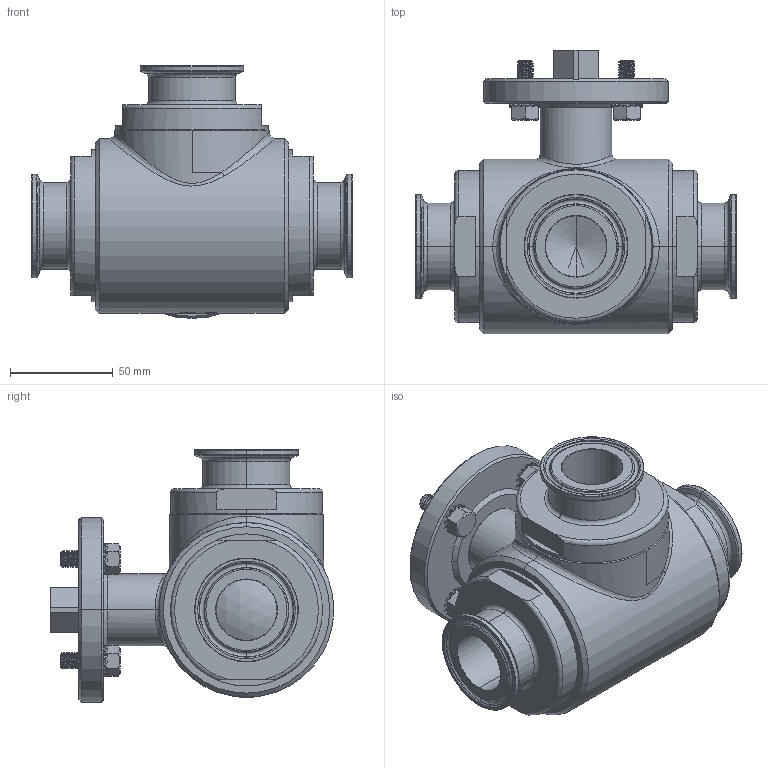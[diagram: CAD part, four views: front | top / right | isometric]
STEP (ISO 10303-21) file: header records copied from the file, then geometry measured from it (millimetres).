
FILE_DESCRIPTION((''),'2;1');
FILE_NAME('PARTE_VUOTA','2022-03-30T16:45:14',('alfio.taboni'),('CDM Tecnoconsulting'),'CREO PARAMETRIC BY PTC INC, 2020053','CREO PARAMETRIC BY PTC INC, 2020053','');
FILE_SCHEMA(('CONFIG_CONTROL_DESIGN','SHAPE_APPEARANCE_LAYERS_GROUPS'));
Products named in the file (1): PARTE_VUOTA
Bounding box: 156 x 138 x 123 mm (x, y, z)
Volume: 692774.5 mm3; surface area: 162437 mm2
Topology: 1 solids, 19 shells, 1543 faces, 4150 edges, 2668 vertices
Faces by surface type: plane 548, cylinder 492, cone 234, torus 110, bspline 99, extrusion 56, sphere 4
Entity records: 87780 total; most frequent: CARTESIAN_POINT 38496, ORIENTED_EDGE 8280, DIRECTION 6771, PRESENTATION_STYLE_ASSIGNMENT 4152, STYLED_ITEM 4144, CURVE_STYLE 4142, EDGE_CURVE 4142, VERTEX_POINT 2668
